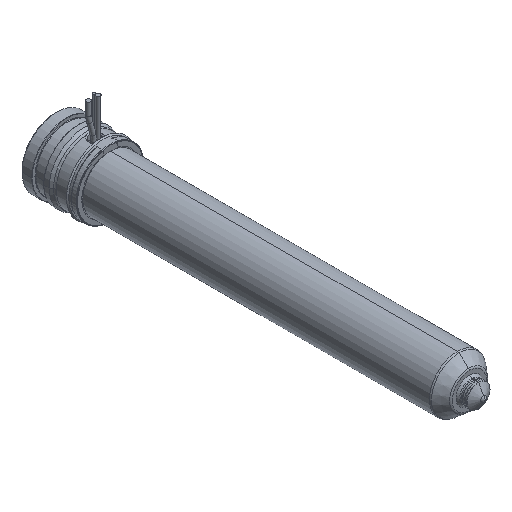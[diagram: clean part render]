
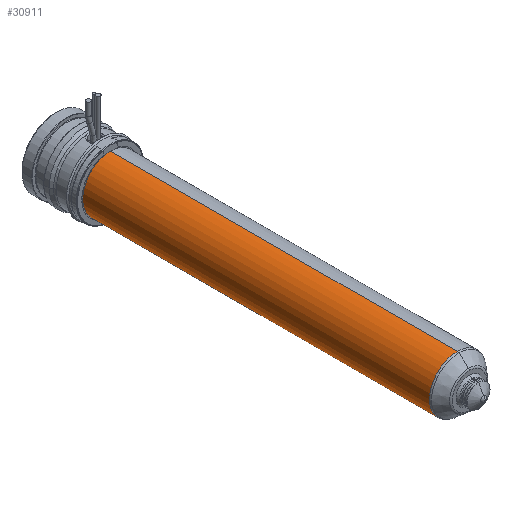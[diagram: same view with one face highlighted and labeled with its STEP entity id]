
A CAD part, isometric view. The second image highlights one B-rep face of the part: STEP entity #30911.
In plain terms, the highlighted cylindrical face has radius 12 mm (diameter 24 mm), a partial arc.
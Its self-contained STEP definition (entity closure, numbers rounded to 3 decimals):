
#30396=CARTESIAN_POINT('',(0.,-24.,0.));
#30397=DIRECTION('',(0.,1.,0.));
#30398=DIRECTION('',(0.,0.,-1.));
#30399=AXIS2_PLACEMENT_3D('',#30396,#30397,#30398);
#30404=DIRECTION('',(0.,1.,0.));
#30405=VECTOR('',#30404,149.736);
#30406=CARTESIAN_POINT('',(0.,-173.736,12.));
#30407=LINE('',#30406,#30405);
#30419=DIRECTION('',(0.,1.,0.));
#30420=VECTOR('',#30419,149.736);
#30421=CARTESIAN_POINT('',(0.,-173.736,-12.));
#30422=LINE('',#30421,#30420);
#30450=CARTESIAN_POINT('',(0.,-173.736,0.));
#30451=DIRECTION('',(0.,-1.,0.));
#30452=DIRECTION('',(0.,0.,1.));
#30453=AXIS2_PLACEMENT_3D('',#30450,#30451,#30452);
#30780=CARTESIAN_POINT('',(0.,-173.736,12.));
#30781=CARTESIAN_POINT('',(0.,-24.,12.));
#30782=VERTEX_POINT('',#30780);
#30783=VERTEX_POINT('',#30781);
#30784=CARTESIAN_POINT('',(0.,-173.736,-12.));
#30785=CARTESIAN_POINT('',(0.,-24.,-12.));
#30786=VERTEX_POINT('',#30784);
#30787=VERTEX_POINT('',#30785);
#30897=CARTESIAN_POINT('',(0.,-11.7,0.));
#30898=DIRECTION('',(0.,-1.,0.));
#30899=DIRECTION('',(0.,0.,1.));
#30900=AXIS2_PLACEMENT_3D('',#30897,#30898,#30899);
#30901=CYLINDRICAL_SURFACE('',#30900,12.);
#30903=ORIENTED_EDGE('',*,*,#30902,.F.);
#30905=ORIENTED_EDGE('',*,*,#30904,.T.);
#30907=ORIENTED_EDGE('',*,*,#30906,.T.);
#30908=ORIENTED_EDGE('',*,*,#30890,.T.);
#30909=EDGE_LOOP('',(#30903,#30905,#30907,#30908));
#30910=FACE_OUTER_BOUND('',#30909,.F.);
#30911=ADVANCED_FACE('',(#30910),#30901,.T.);
#30400=CIRCLE('',#30399,12.);
#30454=CIRCLE('',#30453,12.);
#30890=EDGE_CURVE('',#30787,#30783,#30400,.T.);
#30902=EDGE_CURVE('',#30782,#30783,#30407,.T.);
#30904=EDGE_CURVE('',#30782,#30786,#30454,.T.);
#30906=EDGE_CURVE('',#30786,#30787,#30422,.T.);
